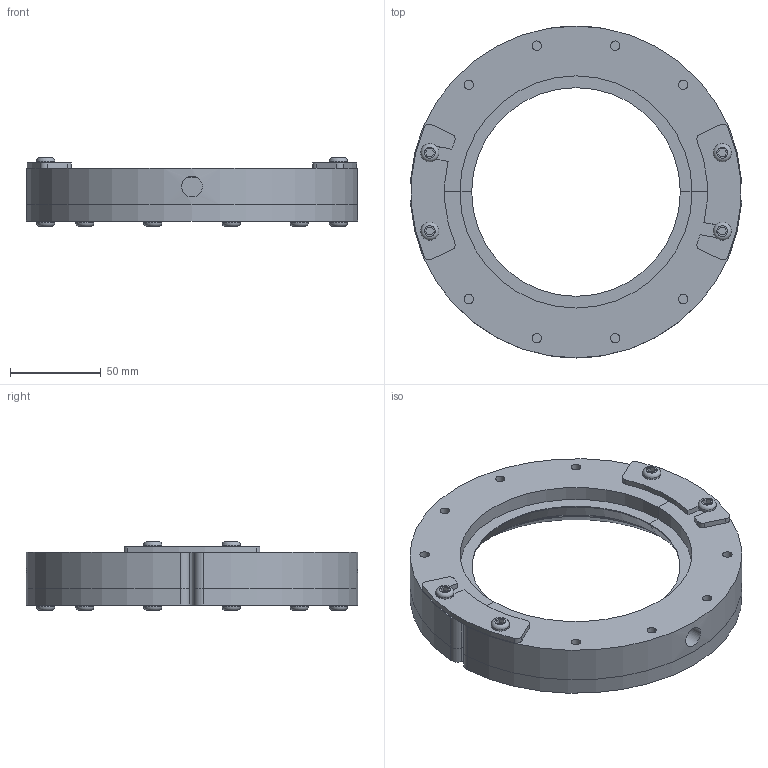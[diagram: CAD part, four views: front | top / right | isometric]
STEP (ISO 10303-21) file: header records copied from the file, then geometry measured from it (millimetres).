
FILE_DESCRIPTION(/* description */ (''),/* implementation_level */ '2;1');
FILE_NAME(/* name */ 'SR-H115.stp',/* time_stamp */ '2023-03-23T11:47:56+08:00',/* author */ (''),/* organization */ (''),/* preprocessor_version */ 'ST-DEVELOPER v16.7',/* originating_system */ 'SIEMENS PLM Software NX 12.0',/* authorisation */ '');
FILE_SCHEMA (('AP203_CONFIGURATION_CONTROLLED_3D_DESIGN_OF_MECHANICAL_PARTS_AND_ASSEMBLIES_MIM_LF { 1 0 10303 403 2 1 2}'));
Length unit declared in the file: millimetre
Products named in the file (1): Admi30C82645y74p
Bounding box: 182.56 x 183 x 38 mm (x, y, z)
Volume: 356760.3 mm3; surface area: 111508 mm2
Topology: 22 solids, 22 shells, 334 faces, 772 edges, 514 vertices
Faces by surface type: plane 194, cylinder 118, torus 18, cone 4
Full cylindrical faces by diameter (mm): 5.2 x12, 6 x16, 6.5 x2, 7 x12, 10 x16, 11.5 x2
Entity records: 9385 total; most frequent: DIRECTION 1610, CARTESIAN_POINT 1593, ORIENTED_EDGE 1360, EDGE_CURVE 680, AXIS2_PLACEMENT_3D 603, EDGE_LOOP 498, VERTEX_POINT 498, LINE 404
